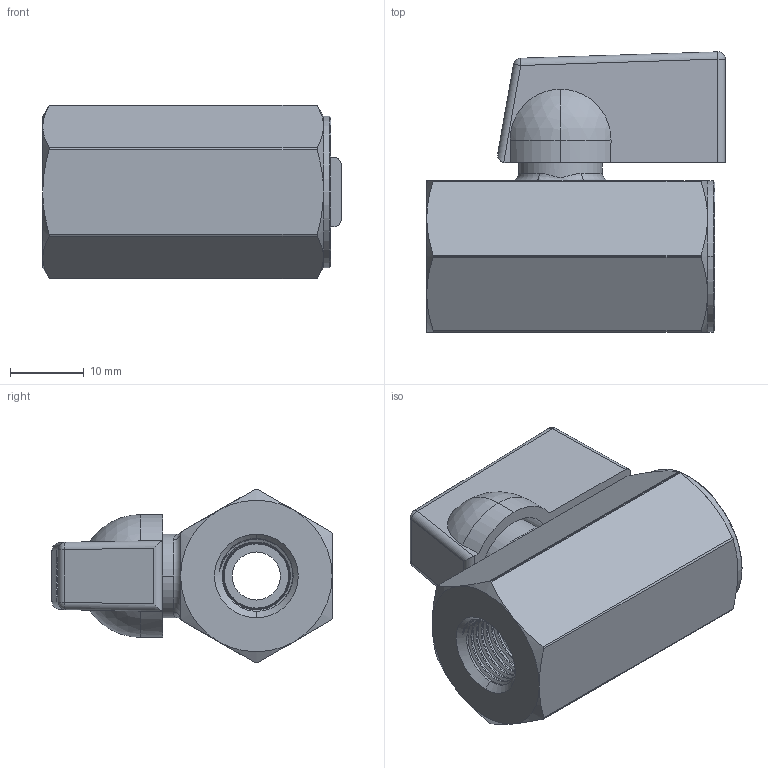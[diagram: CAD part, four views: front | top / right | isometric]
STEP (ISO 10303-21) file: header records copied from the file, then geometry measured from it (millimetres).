
FILE_DESCRIPTION (( 'STEP AP214' ), '1' );
FILE_NAME ('100-430.STEP', '2025-11-06T16:29:14', ( '' ), ( '' ), 'SwSTEP 2.0', 'SolidWorks 2025', '' );
FILE_SCHEMA (( 'AUTOMOTIVE_DESIGN' ));
Length unit declared in the file: inch
Products named in the file (10): 100-430; 1050___2.STEP; 1051_____9.STEP; 31_______9.STEP; 1050.STEP; 1051___3.STEP; _____9.STEP; O-ring_9.STEP; 14___7.STEP; 12_______7.STEP
Assembly tree (11 placements, depth 3):
  100-430
    1050.STEP
      1051_____9.STEP
      12_______7.STEP  x2
      14___7.STEP
      31_______9.STEP
      O-ring_9.STEP  x2
      _____9.STEP
      1050___2.STEP
      1051___3.STEP
Bounding box: 40.4 x 37.92 x 23.5 mm (x, y, z)
Volume: 14768 mm3; surface area: 12927.9 mm2
Topology: 10 solids, 10 shells, 382 faces, 957 edges, 604 vertices
Faces by surface type: cylinder 130, plane 92, cone 81, bspline 33, torus 26, sphere 20
Entity records: 33934 total; most frequent: CARTESIAN_POINT 25374, ORIENTED_EDGE 1826, DIRECTION 1652, EDGE_CURVE 913, AXIS2_PLACEMENT_3D 671, VERTEX_POINT 580, EDGE_LOOP 389, ADVANCED_FACE 362
